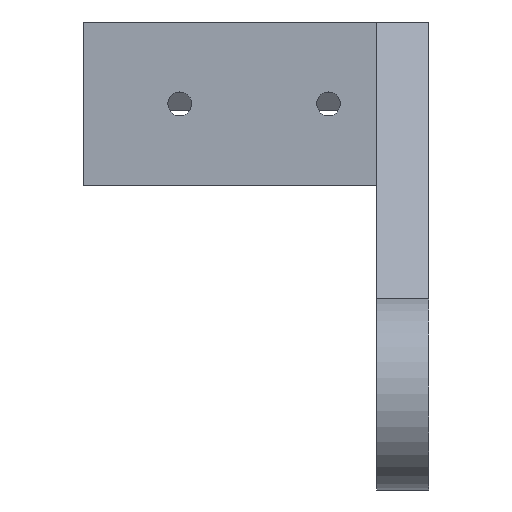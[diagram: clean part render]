
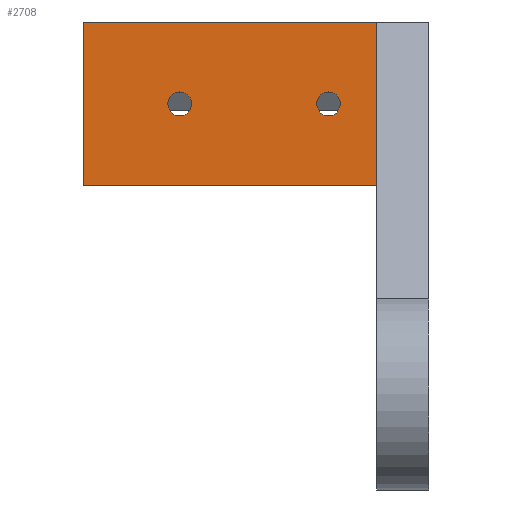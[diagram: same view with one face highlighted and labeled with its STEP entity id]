
A CAD part, top view. The second image highlights one B-rep face of the part: STEP entity #2708.
In plain terms, the highlighted planar face has unit normal (0, 0, 1).
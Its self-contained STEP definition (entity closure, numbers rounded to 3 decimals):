
#32 = PLANE('',#33);
#33 = AXIS2_PLACEMENT_3D('',#34,#35,#36);
#34 = CARTESIAN_POINT('',(12.5,0.,0.));
#35 = DIRECTION('',(1.,0.,0.));
#36 = DIRECTION('',(-0.,0.,1.));
#99 = PLANE('',#100);
#100 = AXIS2_PLACEMENT_3D('',#101,#102,#103);
#101 = CARTESIAN_POINT('',(-27.,28.,-46.));
#102 = DIRECTION('',(-0.,1.,0.));
#103 = DIRECTION('',(0.,0.,-1.));
#1866 = VERTEX_POINT('',#1867);
#1867 = CARTESIAN_POINT('',(12.5,45.,-46.));
#1881 = PLANE('',#1882);
#1882 = AXIS2_PLACEMENT_3D('',#1883,#1884,#1885);
#1883 = CARTESIAN_POINT('',(11.5,45.,-42.249));
#1884 = DIRECTION('',(-0.,1.,0.));
#1885 = DIRECTION('',(0.,0.,-1.));
#1892 = EDGE_CURVE('',#1866,#1893,#1895,.T.);
#1893 = VERTEX_POINT('',#1894);
#1894 = CARTESIAN_POINT('',(12.5,50.,-46.));
#1895 = SURFACE_CURVE('',#1896,(#1900,#1906),.PCURVE_S1.);
#1896 = LINE('',#1897,#1898);
#1897 = CARTESIAN_POINT('',(12.5,25.,-46.));
#1898 = VECTOR('',#1899,1.);
#1899 = DIRECTION('',(-0.,1.,0.));
#1900 = PCURVE('',#32,#1901);
#1901 = DEFINITIONAL_REPRESENTATION('',(#1902),#1905);
#1902 = B_SPLINE_CURVE_WITH_KNOTS('',1,(#1903,#1904),.UNSPECIFIED.,.F.,
  .F.,(2,2),(3.,25.),.PIECEWISE_BEZIER_KNOTS.);
#1903 = CARTESIAN_POINT('',(-46.,-28.));
#1904 = CARTESIAN_POINT('',(-46.,-50.));
#1905 = ( GEOMETRIC_REPRESENTATION_CONTEXT(2) 
PARAMETRIC_REPRESENTATION_CONTEXT() REPRESENTATION_CONTEXT('2D SPACE',''
  ) );
#1906 = PCURVE('',#1907,#1912);
#1907 = PLANE('',#1908);
#1908 = AXIS2_PLACEMENT_3D('',#1909,#1910,#1911);
#1909 = CARTESIAN_POINT('',(-27.,50.,-46.));
#1910 = DIRECTION('',(0.,0.,-1.));
#1911 = DIRECTION('',(0.,-1.,0.));
#1912 = DEFINITIONAL_REPRESENTATION('',(#1913),#1916);
#1913 = B_SPLINE_CURVE_WITH_KNOTS('',1,(#1914,#1915),.UNSPECIFIED.,.F.,
  .F.,(2,2),(3.,25.),.PIECEWISE_BEZIER_KNOTS.);
#1914 = CARTESIAN_POINT('',(22.,-39.5));
#1915 = CARTESIAN_POINT('',(0.,-39.5));
#1916 = ( GEOMETRIC_REPRESENTATION_CONTEXT(2) 
PARAMETRIC_REPRESENTATION_CONTEXT() REPRESENTATION_CONTEXT('2D SPACE',''
  ) );
#1934 = PLANE('',#1935);
#1935 = AXIS2_PLACEMENT_3D('',#1936,#1937,#1938);
#1936 = CARTESIAN_POINT('',(12.5,50.,-40.));
#1937 = DIRECTION('',(-0.,1.,0.));
#1938 = DIRECTION('',(0.,0.,-1.));
#2184 = PLANE('',#2185);
#2185 = AXIS2_PLACEMENT_3D('',#2186,#2187,#2188);
#2186 = CARTESIAN_POINT('',(19.5,20.701,-26.073));
#2187 = DIRECTION('',(-1.,-0.,-0.));
#2188 = DIRECTION('',(0.,0.,-1.));
#2325 = VERTEX_POINT('',#2326);
#2326 = CARTESIAN_POINT('',(-27.,28.,-46.));
#2342 = PLANE('',#2343);
#2343 = AXIS2_PLACEMENT_3D('',#2344,#2345,#2346);
#2344 = CARTESIAN_POINT('',(-27.,39.,-50.5));
#2345 = DIRECTION('',(1.,0.,0.));
#2346 = DIRECTION('',(-0.,0.,1.));
#2354 = EDGE_CURVE('',#2325,#2355,#2357,.T.);
#2355 = VERTEX_POINT('',#2356);
#2356 = CARTESIAN_POINT('',(19.5,28.,-46.));
#2357 = SURFACE_CURVE('',#2358,(#2362,#2369),.PCURVE_S1.);
#2358 = LINE('',#2359,#2360);
#2359 = CARTESIAN_POINT('',(-27.,28.,-46.));
#2360 = VECTOR('',#2361,1.);
#2361 = DIRECTION('',(1.,0.,0.));
#2362 = PCURVE('',#99,#2363);
#2363 = DEFINITIONAL_REPRESENTATION('',(#2364),#2368);
#2364 = LINE('',#2365,#2366);
#2365 = CARTESIAN_POINT('',(0.,0.));
#2366 = VECTOR('',#2367,1.);
#2367 = DIRECTION('',(0.,-1.));
#2368 = ( GEOMETRIC_REPRESENTATION_CONTEXT(2) 
PARAMETRIC_REPRESENTATION_CONTEXT() REPRESENTATION_CONTEXT('2D SPACE',''
  ) );
#2369 = PCURVE('',#1907,#2370);
#2370 = DEFINITIONAL_REPRESENTATION('',(#2371),#2375);
#2371 = LINE('',#2372,#2373);
#2372 = CARTESIAN_POINT('',(22.,0.));
#2373 = VECTOR('',#2374,1.);
#2374 = DIRECTION('',(0.,-1.));
#2375 = ( GEOMETRIC_REPRESENTATION_CONTEXT(2) 
PARAMETRIC_REPRESENTATION_CONTEXT() REPRESENTATION_CONTEXT('2D SPACE',''
  ) );
#2618 = VERTEX_POINT('',#2619);
#2619 = CARTESIAN_POINT('',(-27.,50.,-46.));
#2640 = EDGE_CURVE('',#2618,#1893,#2641,.T.);
#2641 = SURFACE_CURVE('',#2642,(#2646,#2653),.PCURVE_S1.);
#2642 = LINE('',#2643,#2644);
#2643 = CARTESIAN_POINT('',(-27.,50.,-46.));
#2644 = VECTOR('',#2645,1.);
#2645 = DIRECTION('',(1.,0.,0.));
#2646 = PCURVE('',#1934,#2647);
#2647 = DEFINITIONAL_REPRESENTATION('',(#2648),#2652);
#2648 = LINE('',#2649,#2650);
#2649 = CARTESIAN_POINT('',(6.,39.5));
#2650 = VECTOR('',#2651,1.);
#2651 = DIRECTION('',(0.,-1.));
#2652 = ( GEOMETRIC_REPRESENTATION_CONTEXT(2) 
PARAMETRIC_REPRESENTATION_CONTEXT() REPRESENTATION_CONTEXT('2D SPACE',''
  ) );
#2653 = PCURVE('',#1907,#2654);
#2654 = DEFINITIONAL_REPRESENTATION('',(#2655),#2659);
#2655 = LINE('',#2656,#2657);
#2656 = CARTESIAN_POINT('',(0.,-0.));
#2657 = VECTOR('',#2658,1.);
#2658 = DIRECTION('',(0.,-1.));
#2659 = ( GEOMETRIC_REPRESENTATION_CONTEXT(2) 
PARAMETRIC_REPRESENTATION_CONTEXT() REPRESENTATION_CONTEXT('2D SPACE',''
  ) );
#2708 = ADVANCED_FACE('',(#2709,#2777,#2808),#1907,.F.);
#2709 = FACE_BOUND('',#2710,.F.);
#2710 = EDGE_LOOP('',(#2711,#2732,#2733,#2734,#2755,#2776));
#2711 = ORIENTED_EDGE('',*,*,#2712,.F.);
#2712 = EDGE_CURVE('',#2618,#2325,#2713,.T.);
#2713 = SURFACE_CURVE('',#2714,(#2718,#2725),.PCURVE_S1.);
#2714 = LINE('',#2715,#2716);
#2715 = CARTESIAN_POINT('',(-27.,50.,-46.));
#2716 = VECTOR('',#2717,1.);
#2717 = DIRECTION('',(0.,-1.,0.));
#2718 = PCURVE('',#1907,#2719);
#2719 = DEFINITIONAL_REPRESENTATION('',(#2720),#2724);
#2720 = LINE('',#2721,#2722);
#2721 = CARTESIAN_POINT('',(0.,-0.));
#2722 = VECTOR('',#2723,1.);
#2723 = DIRECTION('',(1.,0.));
#2724 = ( GEOMETRIC_REPRESENTATION_CONTEXT(2) 
PARAMETRIC_REPRESENTATION_CONTEXT() REPRESENTATION_CONTEXT('2D SPACE',''
  ) );
#2725 = PCURVE('',#2342,#2726);
#2726 = DEFINITIONAL_REPRESENTATION('',(#2727),#2731);
#2727 = LINE('',#2728,#2729);
#2728 = CARTESIAN_POINT('',(4.5,-11.));
#2729 = VECTOR('',#2730,1.);
#2730 = DIRECTION('',(0.,1.));
#2731 = ( GEOMETRIC_REPRESENTATION_CONTEXT(2) 
PARAMETRIC_REPRESENTATION_CONTEXT() REPRESENTATION_CONTEXT('2D SPACE',''
  ) );
#2732 = ORIENTED_EDGE('',*,*,#2640,.T.);
#2733 = ORIENTED_EDGE('',*,*,#1892,.F.);
#2734 = ORIENTED_EDGE('',*,*,#2735,.F.);
#2735 = EDGE_CURVE('',#2736,#1866,#2738,.T.);
#2736 = VERTEX_POINT('',#2737);
#2737 = CARTESIAN_POINT('',(19.5,45.,-46.));
#2738 = SURFACE_CURVE('',#2739,(#2743,#2749),.PCURVE_S1.);
#2739 = LINE('',#2740,#2741);
#2740 = CARTESIAN_POINT('',(-7.75,45.,-46.));
#2741 = VECTOR('',#2742,1.);
#2742 = DIRECTION('',(-1.,0.,-0.));
#2743 = PCURVE('',#1907,#2744);
#2744 = DEFINITIONAL_REPRESENTATION('',(#2745),#2748);
#2745 = B_SPLINE_CURVE_WITH_KNOTS('',1,(#2746,#2747),.UNSPECIFIED.,.F.,
  .F.,(2,2),(-27.25,-20.25),.PIECEWISE_BEZIER_KNOTS.);
#2746 = CARTESIAN_POINT('',(5.,-46.5));
#2747 = CARTESIAN_POINT('',(5.,-39.5));
#2748 = ( GEOMETRIC_REPRESENTATION_CONTEXT(2) 
PARAMETRIC_REPRESENTATION_CONTEXT() REPRESENTATION_CONTEXT('2D SPACE',''
  ) );
#2749 = PCURVE('',#1881,#2750);
#2750 = DEFINITIONAL_REPRESENTATION('',(#2751),#2754);
#2751 = B_SPLINE_CURVE_WITH_KNOTS('',1,(#2752,#2753),.UNSPECIFIED.,.F.,
  .F.,(2,2),(-27.25,-20.25),.PIECEWISE_BEZIER_KNOTS.);
#2752 = CARTESIAN_POINT('',(3.751,-8.));
#2753 = CARTESIAN_POINT('',(3.751,-1.));
#2754 = ( GEOMETRIC_REPRESENTATION_CONTEXT(2) 
PARAMETRIC_REPRESENTATION_CONTEXT() REPRESENTATION_CONTEXT('2D SPACE',''
  ) );
#2755 = ORIENTED_EDGE('',*,*,#2756,.T.);
#2756 = EDGE_CURVE('',#2736,#2355,#2757,.T.);
#2757 = SURFACE_CURVE('',#2758,(#2762,#2769),.PCURVE_S1.);
#2758 = LINE('',#2759,#2760);
#2759 = CARTESIAN_POINT('',(19.5,50.,-46.));
#2760 = VECTOR('',#2761,1.);
#2761 = DIRECTION('',(0.,-1.,0.));
#2762 = PCURVE('',#1907,#2763);
#2763 = DEFINITIONAL_REPRESENTATION('',(#2764),#2768);
#2764 = LINE('',#2765,#2766);
#2765 = CARTESIAN_POINT('',(0.,-46.5));
#2766 = VECTOR('',#2767,1.);
#2767 = DIRECTION('',(1.,0.));
#2768 = ( GEOMETRIC_REPRESENTATION_CONTEXT(2) 
PARAMETRIC_REPRESENTATION_CONTEXT() REPRESENTATION_CONTEXT('2D SPACE',''
  ) );
#2769 = PCURVE('',#2184,#2770);
#2770 = DEFINITIONAL_REPRESENTATION('',(#2771),#2775);
#2771 = LINE('',#2772,#2773);
#2772 = CARTESIAN_POINT('',(19.927,-29.299));
#2773 = VECTOR('',#2774,1.);
#2774 = DIRECTION('',(0.,1.));
#2775 = ( GEOMETRIC_REPRESENTATION_CONTEXT(2) 
PARAMETRIC_REPRESENTATION_CONTEXT() REPRESENTATION_CONTEXT('2D SPACE',''
  ) );
#2776 = ORIENTED_EDGE('',*,*,#2354,.F.);
#2777 = FACE_BOUND('',#2778,.F.);
#2778 = EDGE_LOOP('',(#2779));
#2779 = ORIENTED_EDGE('',*,*,#2780,.F.);
#2780 = EDGE_CURVE('',#2781,#2781,#2783,.T.);
#2781 = VERTEX_POINT('',#2782);
#2782 = CARTESIAN_POINT('',(7.6,39.,-46.));
#2783 = SURFACE_CURVE('',#2784,(#2789,#2796),.PCURVE_S1.);
#2784 = CIRCLE('',#2785,1.6);
#2785 = AXIS2_PLACEMENT_3D('',#2786,#2787,#2788);
#2786 = CARTESIAN_POINT('',(6.,39.,-46.));
#2787 = DIRECTION('',(0.,0.,-1.));
#2788 = DIRECTION('',(1.,0.,0.));
#2789 = PCURVE('',#1907,#2790);
#2790 = DEFINITIONAL_REPRESENTATION('',(#2791),#2795);
#2791 = CIRCLE('',#2792,1.6);
#2792 = AXIS2_PLACEMENT_2D('',#2793,#2794);
#2793 = CARTESIAN_POINT('',(11.,-33.));
#2794 = DIRECTION('',(0.,-1.));
#2795 = ( GEOMETRIC_REPRESENTATION_CONTEXT(2) 
PARAMETRIC_REPRESENTATION_CONTEXT() REPRESENTATION_CONTEXT('2D SPACE',''
  ) );
#2796 = PCURVE('',#2797,#2802);
#2797 = CYLINDRICAL_SURFACE('',#2798,1.6);
#2798 = AXIS2_PLACEMENT_3D('',#2799,#2800,#2801);
#2799 = CARTESIAN_POINT('',(6.,39.,-70.));
#2800 = DIRECTION('',(-0.,-0.,-1.));
#2801 = DIRECTION('',(1.,0.,0.));
#2802 = DEFINITIONAL_REPRESENTATION('',(#2803),#2807);
#2803 = LINE('',#2804,#2805);
#2804 = CARTESIAN_POINT('',(-6.283,-24.));
#2805 = VECTOR('',#2806,1.);
#2806 = DIRECTION('',(1.,-0.));
#2807 = ( GEOMETRIC_REPRESENTATION_CONTEXT(2) 
PARAMETRIC_REPRESENTATION_CONTEXT() REPRESENTATION_CONTEXT('2D SPACE',''
  ) );
#2808 = FACE_BOUND('',#2809,.F.);
#2809 = EDGE_LOOP('',(#2810));
#2810 = ORIENTED_EDGE('',*,*,#2811,.F.);
#2811 = EDGE_CURVE('',#2812,#2812,#2814,.T.);
#2812 = VERTEX_POINT('',#2813);
#2813 = CARTESIAN_POINT('',(-12.4,39.,-46.));
#2814 = SURFACE_CURVE('',#2815,(#2820,#2827),.PCURVE_S1.);
#2815 = CIRCLE('',#2816,1.6);
#2816 = AXIS2_PLACEMENT_3D('',#2817,#2818,#2819);
#2817 = CARTESIAN_POINT('',(-14.,39.,-46.));
#2818 = DIRECTION('',(0.,0.,-1.));
#2819 = DIRECTION('',(1.,0.,0.));
#2820 = PCURVE('',#1907,#2821);
#2821 = DEFINITIONAL_REPRESENTATION('',(#2822),#2826);
#2822 = CIRCLE('',#2823,1.6);
#2823 = AXIS2_PLACEMENT_2D('',#2824,#2825);
#2824 = CARTESIAN_POINT('',(11.,-13.));
#2825 = DIRECTION('',(0.,-1.));
#2826 = ( GEOMETRIC_REPRESENTATION_CONTEXT(2) 
PARAMETRIC_REPRESENTATION_CONTEXT() REPRESENTATION_CONTEXT('2D SPACE',''
  ) );
#2827 = PCURVE('',#2828,#2833);
#2828 = CYLINDRICAL_SURFACE('',#2829,1.6);
#2829 = AXIS2_PLACEMENT_3D('',#2830,#2831,#2832);
#2830 = CARTESIAN_POINT('',(-14.,39.,-70.));
#2831 = DIRECTION('',(-0.,-0.,-1.));
#2832 = DIRECTION('',(1.,0.,0.));
#2833 = DEFINITIONAL_REPRESENTATION('',(#2834),#2838);
#2834 = LINE('',#2835,#2836);
#2835 = CARTESIAN_POINT('',(-6.283,-24.));
#2836 = VECTOR('',#2837,1.);
#2837 = DIRECTION('',(1.,-0.));
#2838 = ( GEOMETRIC_REPRESENTATION_CONTEXT(2) 
PARAMETRIC_REPRESENTATION_CONTEXT() REPRESENTATION_CONTEXT('2D SPACE',''
  ) );
